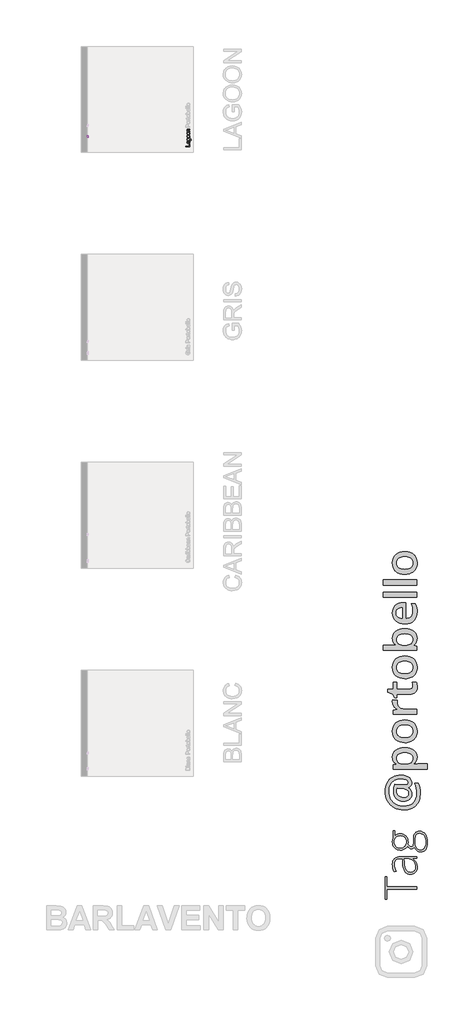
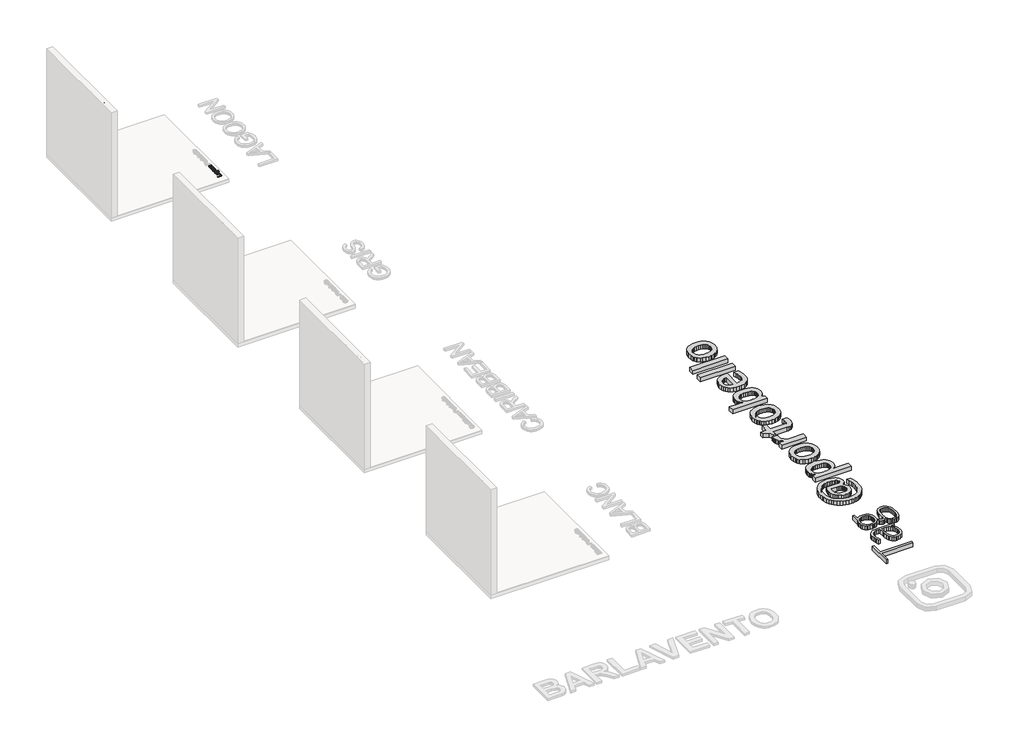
# One storey, part 5 of 7: 4 proxies.
"""IFC4 building model written with IfcOpenShell, lengths in millimetres."""

from ifc_helpers import new_model, si_unit, frame, origin, origin_with_axes, place, context, project, spatial, polyline, outline, extrude, element, save

model = new_model("IFC4")

# Units and contexts
model_context = context("Model", 3, world=origin())
ifc_project = project(units=[si_unit("LENGTHUNIT", "METRE", prefix="MILLI")], contexts=[model_context])

# Site, building, storey
site = spatial("IfcSite", under=ifc_project)
building = spatial("IfcBuilding", under=site)
storey = spatial("IfcBuildingStorey", under=building, Name="PORTOBELLO - SHOWROOM", Elevation=0.0)

# Proxies
placement = place(None, origin())
element("IfcBuildingElementProxy", 1, Name="10mm Arial", ObjectType="10mm Arial", at=placement, inside=storey, context=model_context, shape_type="SweptSolid", body=[
    extrude(outline(polyline([(3314.7405338, 2478.2261649), (3314.7405338, 2578.6824751), (3327.2975726, 2578.6824751), (3327.2975726, 2490.7832037), (3377.5257276, 2490.7832037), (3377.5257276, 2478.2261649), (3314.7405338, 2478.2261649)])), frame((74564.1689403, 0.0, 0.0), z_axis=(1.0, 0.0, 0.0), x_axis=(0.0, 1.0, 0.0)), (0.0, 0.0, 1.0), 20.0),
    extrude(outline(polyline([(3437.1716618, 2487.643944), (3424.9947677, 2479.1336072), (3411.5425494, 2476.6565351), (3401.0487155, 2478.1464572), (3393.3078652, 2482.6162234), (3388.5345963, 2489.4036462), (3386.9435067, 2497.846538), (3389.3470024, 2507.7793519), (3395.66231, 2514.989839), (3404.4546897, 2519.1101173), (3415.3194713, 2520.9985782), (3437.0980854, 2525.3150603), (3437.1716618, 2528.1109635), (3433.713571, 2537.3815898), (3419.8321571, 2541.0113588), (3407.1279655, 2538.5956003), (3401.0701753, 2530.0239499), (3388.5131365, 2531.5935797), (3393.9455273, 2543.8563129), (3404.8838853, 2551.0422745), (3421.4508379, 2553.5683975), (3436.6688897, 2551.3365801), (3445.2650657, 2545.732511), (3449.1155639, 2537.2099115), (3449.7287005, 2526.2225026), (3449.7287005, 2510.5997805), (3450.3663627, 2488.7843782), (3452.8679602, 2478.2261649), (3440.3109215, 2478.2261649), (3437.1716618, 2487.643944)]), holes=[polyline([(3437.1716618, 2512.7580215), (3416.9136266, 2508.9075233), (3406.1101587, 2506.8719096), (3401.2173281, 2503.5609717), (3399.5005455, 2498.7294548), (3403.2406791, 2491.9359006), (3414.2158253, 2489.2135739), (3426.9200168, 2492.2179435), (3435.1115226, 2499.4897443), (3437.0980854, 2509.2018289), (3437.1716618, 2512.7580215)])]), frame((74564.1689403, 0.0, 0.0), z_axis=(1.0, 0.0, 0.0), x_axis=(0.0, 1.0, 0.0)), (0.0, 0.0, 1.0), 20.0),
    extrude(outline(polyline([(3463.8553692, 2471.9476455), (3476.4124079, 2470.3780157), (3480.4836353, 2463.7561398), (3492.6727921, 2460.9602366), (3505.5241365, 2464.1240218), (3511.6555031, 2473.0022406), (3512.5138944, 2487.643944), (3503.6724638, 2480.5806097), (3492.8935213, 2478.2261649), (3479.9471408, 2480.9668858), (3470.2933041, 2489.1890484), (3464.2876305, 2501.2433151), (3462.2857393, 2515.4803483), (3465.8787201, 2534.9413059), (3476.2775179, 2548.7123552), (3492.2803847, 2553.5683975), (3503.4823914, 2550.8215453), (3512.5138944, 2542.5809886), (3512.5138944, 2551.9987677), (3525.0709332, 2551.9987677), (3525.0709332, 2488.3061316), (3521.6373679, 2463.9155553), (3510.7603235, 2452.5725271), (3492.4275375, 2448.4031979), (3480.7442184, 2449.8716602), (3471.5441029, 2454.277047), (3465.6426625, 2461.6316213), (3463.8553692, 2471.9476455)]), holes=[polyline([(3474.8427781, 2516.3387396), (3476.1824817, 2504.8209675), (3480.2015925, 2496.9023076), (3486.2440543, 2492.3129797), (3493.6538108, 2490.7832037), (3501.008385, 2492.3037826), (3507.0815036, 2496.8655194), (3511.1557967, 2504.6830118), (3512.5138944, 2515.9708576), (3511.1159428, 2526.857099), (3506.9220881, 2534.6960512), (3500.7600646, 2539.4325319), (3493.457607, 2541.0113588), (3486.2869738, 2539.4570573), (3480.2751689, 2534.7941531), (3476.2008758, 2527.0716968), (3474.8427781, 2516.3387396)])]), frame((74564.1689403, 0.0, 0.0), z_axis=(1.0, 0.0, 0.0), x_axis=(0.0, 1.0, 0.0)), (0.0, 0.0, 1.0), 20.0),
    extrude(outline(polyline([(3540.7672316, 2515.1124663), (3543.483427, 2532.8995608), (3551.6320132, 2545.4014173), (3561.6997171, 2551.5266525), (3573.7539839, 2553.5683975), (3586.9456191, 2551.0821284), (3597.4823725, 2543.6233209), (3604.389357, 2531.7805864), (3606.6916852, 2516.1425359), (3602.6204577, 2493.7998361), (3590.7623948, 2481.1569582), (3573.7539839, 2476.6565351), (3560.4029331, 2479.1336072), (3549.8784424, 2486.5648235), (3543.0450343, 2498.6558784), (3540.7672316, 2515.1124663)]), holes=[polyline([(3553.3242704, 2515.1369918), (3554.7774043, 2503.7725038), (3559.1368059, 2495.6760342), (3565.6973682, 2490.829189), (3573.7539839, 2489.2135739), (3581.7738113, 2490.838386), (3588.3221109, 2495.7128224), (3592.6815125, 2503.9165909), (3594.1346464, 2515.5293992), (3592.6723155, 2526.5627934), (3588.2853227, 2534.5488984), (3581.7278261, 2539.3957437), (3573.7539839, 2541.0113588), (3565.6973682, 2539.401875), (3559.1368059, 2534.5734239), (3554.7774043, 2526.4953484), (3553.3242704, 2515.1369918)])]), frame((74564.1689403, 0.0, 0.0), z_axis=(1.0, 0.0, 0.0), x_axis=(0.0, 1.0, 0.0)), (0.0, 0.0, 1.0), 20.0),
    extrude(outline(polyline([(3617.6790941, 2515.1124663), (3620.3952895, 2532.8995608), (3628.5438757, 2545.4014173), (3638.6115796, 2551.5266525), (3650.6658463, 2553.5683975), (3663.8574815, 2551.0821284), (3674.394235, 2543.6233209), (3681.3012195, 2531.7805864), (3683.6035476, 2516.1425359), (3679.5323202, 2493.7998361), (3667.6742572, 2481.1569582), (3650.6658463, 2476.6565351), (3637.3147956, 2479.1336072), (3626.7903048, 2486.5648235), (3619.9568968, 2498.6558784), (3617.6790941, 2515.1124663)]), holes=[polyline([(3630.2361328, 2515.1369918), (3631.6892667, 2503.7725038), (3636.0486684, 2495.6760342), (3642.6092306, 2490.829189), (3650.6658463, 2489.2135739), (3658.6856738, 2490.838386), (3665.2339733, 2495.7128224), (3669.593375, 2503.9165909), (3671.0465088, 2515.5293992), (3669.5841779, 2526.5627934), (3665.1971851, 2534.5488984), (3658.6396886, 2539.3957437), (3650.6658463, 2541.0113588), (3642.6092306, 2539.401875), (3636.0486684, 2534.5734239), (3631.6892667, 2526.4953484), (3630.2361328, 2515.1369918)])]), frame((74564.1689403, 0.0, 0.0), z_axis=(1.0, 0.0, 0.0), x_axis=(0.0, 1.0, 0.0)), (0.0, 0.0, 1.0), 20.0),
    extrude(outline(polyline([(3697.7302162, 2478.2261649), (3697.7302162, 2551.9987677), (3710.287255, 2551.9987677), (3710.287255, 2541.6980718), (3719.8889751, 2550.6008161), (3732.9978368, 2553.5683975), (3744.8558998, 2551.1771646), (3752.9493037, 2544.8986452), (3756.7139628, 2535.6648071), (3757.3761504, 2523.5247013), (3757.3761504, 2478.2261649), (3744.8191116, 2478.2261649), (3744.8191116, 2521.8324441), (3743.3721091, 2532.9424803), (3738.2585494, 2538.8163295), (3729.6378479, 2541.0113588), (3716.0139514, 2536.08174), (3711.7189291, 2528.938698), (3710.287255, 2517.3688092), (3710.287255, 2478.2261649), (3697.7302162, 2478.2261649)])), frame((74564.1689403, 0.0, 0.0), z_axis=(1.0, 0.0, 0.0), x_axis=(0.0, 1.0, 0.0)), (0.0, 0.0, 1.0), 20.0),
])
element("IfcBuildingElementProxy", 2, Name="10mm Arial", ObjectType="10mm Arial", at=placement, inside=storey, context=model_context, shape_type="SweptSolid", body=[
    extrude(outline(polyline([(77181.6975876, 3318.0326536), (77081.2412774, 3318.0326536), (77081.2412774, 3330.5896924), (77169.1405488, 3330.5896924), (77169.1405488, 3380.8178475), (77181.6975876, 3380.8178475), (77181.6975876, 3318.0326536)])), frame((0.0, 0.0, 15.0), z_axis=(0.0, 0.0, 1.0), x_axis=(1.0, 0.0, 0.0)), (0.0, 0.0, 1.0), 20.0),
    extrude(outline(polyline([(77172.2798085, 3440.4637816), (77180.7901453, 3428.2868876), (77183.2672174, 3414.8346693), (77181.7772953, 3404.3408354), (77177.3075291, 3396.5999851), (77170.5201063, 3391.8267162), (77162.0772145, 3390.2356266), (77152.1444006, 3392.6391223), (77144.9339135, 3398.9544299), (77140.8136352, 3407.7468095), (77138.9251743, 3418.6115911), (77134.6086922, 3440.3902052), (77131.812789, 3440.4637816), (77122.5421627, 3437.0056909), (77118.9123937, 3423.1242769), (77121.3281522, 3410.4200854), (77129.8998026, 3404.3622952), (77128.3301728, 3391.8052564), (77116.0674396, 3397.2376472), (77108.881478, 3408.1760052), (77106.355355, 3424.7429577), (77108.5871724, 3439.9610096), (77114.1912414, 3448.5571855), (77122.713841, 3452.4076838), (77133.7012499, 3453.0208204), (77149.323972, 3453.0208204), (77171.1393743, 3453.6584825), (77181.6975876, 3456.1600801), (77181.6975876, 3443.6030413), (77172.2798085, 3440.4637816)]), holes=[polyline([(77147.1657309, 3440.4637816), (77151.0162292, 3420.2057464), (77153.0518429, 3409.4022785), (77156.3627808, 3404.509448), (77161.1942977, 3402.7926653), (77167.9878519, 3406.532799), (77170.7101786, 3417.5079451), (77167.705809, 3430.2121367), (77160.4340082, 3438.4036425), (77150.7219236, 3440.3902052), (77147.1657309, 3440.4637816)])]), frame((0.0, 0.0, 15.0), z_axis=(0.0, 0.0, 1.0), x_axis=(1.0, 0.0, 0.0)), (0.0, 0.0, 1.0), 20.0),
    extrude(outline(polyline([(77187.9761069, 3467.147489), (77189.5457368, 3479.7045278), (77196.1676127, 3483.7757552), (77198.9635159, 3495.964912), (77195.7997307, 3508.8162563), (77186.9215119, 3514.9476229), (77172.2798085, 3515.8060143), (77179.3431428, 3506.9645836), (77181.6975876, 3496.1856412), (77178.9568667, 3483.2392606), (77170.7347041, 3473.5854239), (77158.6804374, 3467.5797504), (77144.4434042, 3465.5778592), (77124.9824466, 3469.17084), (77111.2113973, 3479.5696377), (77106.355355, 3495.5725045), (77109.1022072, 3506.7745113), (77117.3427639, 3515.8060143), (77107.9249848, 3515.8060143), (77107.9249848, 3528.363053), (77171.6176209, 3528.363053), (77196.0081972, 3524.9294877), (77207.3512254, 3514.0524434), (77211.5205546, 3495.7196573), (77210.0520923, 3484.0363383), (77205.6467054, 3474.8362227), (77198.2921312, 3468.9347824), (77187.9761069, 3467.147489)]), holes=[polyline([(77143.5850129, 3478.1348979), (77155.102785, 3479.4746015), (77163.0214449, 3483.4937123), (77167.6107728, 3489.5361741), (77169.1405488, 3496.9459306), (77167.6199699, 3504.3005049), (77163.0582331, 3510.3736235), (77155.2407407, 3514.4479166), (77143.9528949, 3515.8060143), (77133.0666535, 3514.4080627), (77125.2277013, 3510.2142079), (77120.4912206, 3504.0521845), (77118.9123937, 3496.7497269), (77120.4666951, 3489.5790937), (77125.1295994, 3483.5672887), (77132.8520557, 3479.4929956), (77143.5850129, 3478.1348979)])]), frame((0.0, 0.0, 15.0), z_axis=(0.0, 0.0, 1.0), x_axis=(1.0, 0.0, 0.0)), (0.0, 0.0, 1.0), 20.0),
    extrude(outline(polyline([(77144.8112862, 3544.0593515), (77127.0241917, 3546.7755469), (77114.5223352, 3554.9241331), (77108.3971, 3564.991837), (77106.355355, 3577.0461037), (77108.8416241, 3590.2377389), (77116.3004316, 3600.7744924), (77128.1431661, 3607.6814769), (77143.7812166, 3609.983805), (77166.1239164, 3605.9125776), (77178.7667943, 3594.0545146), (77183.2672174, 3577.0461037), (77180.7901453, 3563.695053), (77173.358929, 3553.1705622), (77161.2678741, 3546.3371542), (77144.8112862, 3544.0593515)]), holes=[polyline([(77144.7867607, 3556.6163903), (77156.1512487, 3558.0695241), (77164.2477183, 3562.4289258), (77169.0945635, 3568.989488), (77170.7101786, 3577.0461037), (77169.0853665, 3585.0659312), (77164.2109301, 3591.6142307), (77156.0071616, 3595.9736324), (77144.3943533, 3597.4267663), (77133.3609591, 3595.9644353), (77125.3748541, 3591.5774425), (77120.5280088, 3585.019946), (77118.9123937, 3577.0461037), (77120.5218774, 3568.989488), (77125.3503286, 3562.4289258), (77133.4284041, 3558.0695241), (77144.7867607, 3556.6163903)])]), frame((0.0, 0.0, 15.0), z_axis=(0.0, 0.0, 1.0), x_axis=(1.0, 0.0, 0.0)), (0.0, 0.0, 1.0), 20.0),
    extrude(outline(polyline([(77144.8112862, 3620.9712139), (77127.0241917, 3623.6874093), (77114.5223352, 3631.8359955), (77108.3971, 3641.9036995), (77106.355355, 3653.9579662), (77108.8416241, 3667.1496014), (77116.3004316, 3677.6863549), (77128.1431661, 3684.5933393), (77143.7812166, 3686.8956675), (77166.1239164, 3682.8244401), (77178.7667943, 3670.9663771), (77183.2672174, 3653.9579662), (77180.7901453, 3640.6069154), (77173.358929, 3630.0824247), (77161.2678741, 3623.2490166), (77144.8112862, 3620.9712139)]), holes=[polyline([(77144.7867607, 3633.5282527), (77156.1512487, 3634.9813866), (77164.2477183, 3639.3407882), (77169.0945635, 3645.9013505), (77170.7101786, 3653.9579662), (77169.0853665, 3661.9777937), (77164.2109301, 3668.5260932), (77156.0071616, 3672.8854948), (77144.3943533, 3674.3386287), (77133.3609591, 3672.8762978), (77125.3748541, 3668.489305), (77120.5280088, 3661.9318084), (77118.9123937, 3653.9579662), (77120.5218774, 3645.9013505), (77125.3503286, 3639.3407882), (77133.4284041, 3634.9813866), (77144.7867607, 3633.5282527)])]), frame((0.0, 0.0, 15.0), z_axis=(0.0, 0.0, 1.0), x_axis=(1.0, 0.0, 0.0)), (0.0, 0.0, 1.0), 20.0),
    extrude(outline(polyline([(77181.6975876, 3701.0223361), (77107.9249848, 3701.0223361), (77107.9249848, 3713.5793749), (77118.2256807, 3713.5793749), (77109.3229364, 3723.1810949), (77106.355355, 3736.2899567), (77108.7465879, 3748.1480197), (77115.0251073, 3756.2414236), (77124.2589454, 3760.0060827), (77136.3990512, 3760.6682702), (77181.6975876, 3760.6682702), (77181.6975876, 3748.1112315), (77138.0913084, 3748.1112315), (77126.9812721, 3746.664229), (77121.107423, 3741.5506692), (77118.9123937, 3732.9299678), (77123.8420125, 3719.3060713), (77130.9850545, 3715.011049), (77142.5549433, 3713.5793749), (77181.6975876, 3713.5793749), (77181.6975876, 3701.0223361)])), frame((0.0, 0.0, 15.0), z_axis=(0.0, 0.0, 1.0), x_axis=(1.0, 0.0, 0.0)), (0.0, 0.0, 1.0), 20.0),
])
element("IfcBuildingElementProxy", 3, Name="80mm OpenSans Bold", ObjectType="80mm OpenSans Bold", at=placement, inside=storey, context=model_context, shape_type="SweptSolid", body=[
    extrude(outline(polyline([(82558.5850971, -12706.9076279), (82596.6907118, -12708.4549878), (82633.1287833, -12713.0970674), (82667.8993116, -12720.8338668), (82701.0022968, -12731.6653858), (82731.483784, -12745.3061894), (82758.3898182, -12761.470842), (82781.7203996, -12780.1593437), (82801.475528, -12801.3716946), (82817.1970048, -12824.7172988), (82828.426631, -12849.8055608), (82835.1644068, -12876.6364805), (82837.410332, -12905.2100579), (82831.7016257, -12945.8320103), (82824.5657428, -12963.9796872), (82814.5755067, -12980.6851646), (82802.1515591, -12995.362549), (82787.7145412, -13007.4259469), (82771.2644533, -13016.8753581), (82752.8012952, -13023.7107828), (82752.8012952, -13030.4410471), (82789.8177488, -13060.6070531), (82816.2580728, -13097.2629568), (82832.1222672, -13139.6275669), (82837.410332, -13186.9196918), (82833.8574135, -13229.5847601), (82823.1986579, -13267.4424967), (82805.4340652, -13300.4929017), (82780.5636354, -13328.7359751), (82749.6239495, -13351.3454567), (82713.6515882, -13367.4950864), (82672.6465516, -13377.1848643), (82626.6088398, -13380.4147902), (82573.4652908, -13376.1332605), (82525.5647379, -13363.2886713), (82482.9071811, -13341.8810226), (82445.4926203, -13311.9103144), (82415.0486905, -13274.7286088), (82393.3030263, -13231.6879677), (82380.2556277, -13182.7883912), (82375.9064949, -13128.0298793), (82377.7392901, -13083.7122908), (82383.2376757, -13034.8878288), (82391.9810101, -12986.6642833), (82403.5486518, -12944.1494442), (82654.7317298, -12956.4081399), (82667.4711587, -12956.4081399), (82705.3288953, -12952.8026411), (82732.3701358, -12941.9861449), (82741.8345699, -12933.8737728), (82748.59488, -12923.9586513), (82754.0031281, -12898.7201602), (82750.5403471, -12877.9660082), (82740.1520038, -12859.4502699), (82722.8380985, -12843.1729454), (82698.598631, -12829.1340348), (82668.9959842, -12817.829294), (82635.5925408, -12809.7544791), (82598.3883008, -12804.9095902), (82557.3832642, -12803.2946272), (82512.2919957, -12805.713316), (82470.0400575, -12812.9693822), (82430.6274496, -12825.0628258), (82394.0541718, -12841.9936469), (82360.9136294, -12863.3862727), (82331.7992271, -12888.8651304), (82306.7109652, -12918.4302199), (82285.6488434, -12952.0815414), (82268.9809233, -12989.0829721), (82257.075266, -13028.6983893), (82249.9318717, -13070.9277932), (82247.5507402, -13115.7711836), (82250.5402996, -13172.745575), (82259.5089777, -13225.8891239), (82274.4567745, -13275.2018305), (82295.38369, -13320.6836946), (82321.8615713, -13361.6737083), (82353.4622653, -13397.5108633), (82390.1857722, -13428.1951598), (82432.0320918, -13453.7265977), (82478.2200328, -13473.8122302), (82527.9684037, -13488.1591105), (82581.2772047, -13496.7672387), (82638.1464357, -13499.6366148), (82712.3220605, -13494.2809469), (82777.408824, -13478.2139432), (82806.5438828, -13466.1636904), (82833.4067261, -13451.4356037), (82857.9973542, -13434.029683), (82880.3157669, -13413.9459284), (82900.1741778, -13391.360859), (82917.3848007, -13366.4509941), (82931.9476354, -13339.2163337), (82943.862682, -13309.6568777), (82959.7494107, -13243.5635791), (82965.044987, -13168.1710984), (82961.9502672, -13106.4569786), (82952.666108, -13043.4208425), (82937.1925093, -12979.0626902), (82915.5294711, -12913.3825217), (83005.6669393, -12913.3825217), (83026.2783737, -12972.6028383), (83041.0008268, -13034.4070957), (83049.8342987, -13098.7952938), (83052.7787893, -13165.7674326), (83051.0830782, -13215.3824753), (83045.9959449, -13262.1919892), (83037.5173893, -13306.1959745), (83025.6474114, -13347.394431), (83010.3860113, -13385.7873589), (82991.733189, -13421.374758), (82969.6889444, -13454.1566285), (82944.2532776, -13484.1329703), (82915.7829827, -13510.9206991), (82884.6348539, -13534.1367307), (82850.8088911, -13553.7810652), (82814.3050943, -13569.8537025), (82775.1234636, -13582.3546426), (82733.263999, -13591.2838856), (82688.7267004, -13596.6414313), (82641.5115678, -13598.4272799), (82572.4437328, -13594.5663917), (82507.2968777, -13582.983727), (82446.0710024, -13563.6792859), (82388.766107, -13536.6530684), (82336.6666504, -13502.7764033), (82291.0570915, -13462.9206194), (82251.9374303, -13417.0857168), (82219.3076668, -13365.2716956), (82193.595954, -13308.6503426), (82175.2304449, -13248.3934451), (82164.2111394, -13184.5010031), (82160.5380376, -13116.9730165), (82163.6027115, -13058.7517235), (82172.7967333, -13003.7904023), (82188.1201029, -12952.0890528), (82209.5728203, -12903.6476751), (82236.6891753, -12859.4652928), (82269.0034576, -12820.5409295), (82306.5156673, -12786.8745851), (82349.2258043, -12758.4662597), (82396.2925856, -12735.9093583), (82446.8747282, -12719.7972859), (82500.972232, -12710.1300424), (82558.5850971, -12706.9076279)]), holes=[polyline([(82628.5317724, -13275.1342274), (82657.9391214, -13273.5455545), (82683.4254905, -13268.7795359), (82704.9908798, -13260.8361715), (82722.6352892, -13249.7154613), (82736.3587187, -13235.4174054), (82746.1611684, -13217.9420038), (82752.0426382, -13197.2892564), (82754.0031281, -13173.4591633), (82751.5393707, -13148.1756034), (82744.1480983, -13125.9266717), (82731.829311, -13106.7123681), (82714.5830087, -13090.5326925), (82692.4091915, -13077.3876451), (82665.3078594, -13067.2772257), (82633.2790124, -13060.2014345), (82596.3226504, -13056.1602713), (82467.7265292, -13049.430007), (82460.8760816, -13085.7253609), (82458.5925991, -13124.4243806), (82461.4544637, -13158.0381447), (82470.0400575, -13187.730929), (82484.3493806, -13213.5027335), (82504.3824329, -13235.3535581), (82529.3129543, -13252.7576009), (82558.3146847, -13265.18906), (82591.3876241, -13272.6479355), (82628.5317724, -13275.1342274)])]), origin_with_axes(), (0.0, 0.0, 1.0), 100.0),
    extrude(outline(polyline([(82975.8614832, -12248.2881898), (82970.6635558, -12301.8448688), (82955.0697738, -12349.0618792), (82929.0801372, -12389.939221), (82892.6946458, -12424.4768943), (82892.6946458, -12432.1686249), (82986.6779793, -12424.4768943), (83237.3803242, -12424.4768943), (83237.3803242, -12553.3133821), (82360.5230337, -12553.3133821), (82360.5230337, -12448.9942856), (82437.6807064, -12430.966792), (82437.6807064, -12424.4768943), (82415.9913782, -12408.6465014), (82397.1939603, -12390.960779), (82381.2884529, -12371.4197271), (82368.2748559, -12350.0233455), (82358.1531694, -12326.7716345), (82350.9233933, -12301.6645939), (82345.1395724, -12245.884524), (82350.2999425, -12193.0789905), (82365.7810526, -12146.4328507), (82391.5829029, -12105.9461046), (82427.7054933, -12071.6187521), (82473.1422887, -12044.2770535), (82526.8867541, -12024.7472687), (82588.9388895, -12013.0293978), (82659.2986949, -12009.1234409), (82729.8312637, -12013.0970009), (82792.161323, -12025.0176811), (82846.2888726, -12044.8854814), (82892.2139127, -12072.7004018), (82928.8097248, -12107.5159988), (82954.9495905, -12148.3858292), (82970.63351, -12195.3098929), (82975.8614832, -12248.2881898)]), holes=[polyline([(82452.8238011, -12279.776212), (82455.6180626, -12314.8622215), (82464.0008471, -12344.8855099), (82477.9721547, -12369.8460771), (82497.5319853, -12389.7439232), (82523.2211637, -12404.939598), (82555.5805148, -12415.7936515), (82594.6100386, -12422.3060836), (82640.3097349, -12424.4768943), (82659.2986949, -12424.4768943), (82710.6470059, -12422.3286179), (82754.363678, -12415.883789), (82790.4487111, -12405.1424073), (82818.9021052, -12390.1044731), (82840.459983, -12370.1840926), (82855.8584672, -12344.7953724), (82865.0975577, -12313.9383124), (82868.1772545, -12277.6129128), (82864.7670536, -12246.6882497), (82854.536451, -12219.5343374), (82837.4854466, -12196.1511759), (82813.6140404, -12176.5387651), (82783.4480344, -12161.0276091), (82747.5132304, -12149.948212), (82705.8096285, -12143.3005737), (82658.3372286, -12141.0846943), (82610.7070881, -12143.2855508), (82569.2513642, -12149.8881203), (82533.9700568, -12160.8924029), (82504.8631661, -12176.2983985), (82482.0959439, -12195.970901), (82465.8336423, -12219.774704), (82456.0762614, -12247.7098077), (82452.8238011, -12279.776212)])]), origin_with_axes(), (0.0, 0.0, 1.0), 100.0),
    extrude(outline(polyline([(82659.2986949, -11301.0034908), (82729.8312637, -11305.8108224), (82792.161323, -11320.2328173), (82846.2888726, -11344.2694755), (82892.2139127, -11377.920797), (82911.818812, -11398.0928112), (82928.8097248, -11420.1502008), (82943.1866509, -11444.0929658), (82954.9495905, -11469.9211062), (82970.63351, -11527.233513), (82975.8614832, -11592.0874214), (82973.4503059, -11633.7384431), (82966.2167741, -11672.8806387), (82954.1608877, -11709.5140081), (82937.2826468, -11743.6385512), (82915.9050439, -11774.6157945), (82890.3510717, -11801.807264), (82860.6207301, -11825.2129599), (82826.7140191, -11844.8328822), (82789.2543896, -11860.3440382), (82748.8652924, -11871.4234353), (82705.5467275, -11878.0710736), (82659.2986949, -11880.286953), (82589.3294852, -11875.5171786), (82527.4876706, -11861.2078556), (82473.773251, -11837.3589838), (82428.1862265, -11803.9705633), (82408.7221669, -11783.9130987), (82391.8533153, -11761.8989), (82377.5796717, -11737.9279671), (82365.9012359, -11712.0002999), (82350.3299883, -11654.274763), (82345.1395724, -11588.7222892), (82350.4576831, -11525.8288708), (82366.4120149, -11469.8309687), (82393.002568, -11420.7285829), (82430.2293424, -11378.5217134), (82476.4548407, -11344.607491), (82530.0415655, -11320.3830465), (82590.9895169, -11305.8483797), (82659.2986949, -11301.0034908)]), holes=[polyline([(82659.2986949, -11747.6045998), (82708.2546073, -11745.1408424), (82750.6830647, -11737.74957), (82786.5840671, -11725.4307827), (82815.9576146, -11708.1844804), (82838.8037071, -11686.0106632), (82855.1223445, -11658.9093311), (82864.913527, -11626.8804841), (82868.1772545, -11589.9241222), (82864.913527, -11553.3057757), (82855.1223445, -11521.5698754), (82838.8037071, -11494.7164214), (82815.9576146, -11472.7454135), (82786.5840671, -11455.6568518), (82750.6830647, -11443.4507363), (82708.2546073, -11436.1270671), (82659.2986949, -11433.685844), (82610.9061417, -11436.14209), (82568.9659289, -11443.510828), (82533.4780565, -11455.792058), (82504.4425245, -11472.9857801), (82481.859333, -11495.0919942), (82465.728482, -11522.1107003), (82456.0499713, -11554.0418984), (82452.8238011, -11590.8855885), (82456.1588874, -11629.2766385), (82466.1641464, -11662.0040509), (82482.839578, -11689.0678257), (82506.1851823, -11710.4679629), (82535.7652947, -11726.7152416), (82571.144251, -11738.3204406), (82612.322051, -11745.28356), (82659.2986949, -11747.6045998)])]), origin_with_axes(), (0.0, 0.0, 1.0), 100.0),
    extrude(outline(polyline([(82345.1395724, -10850.3161499), (82346.5216803, -10815.6432704), (82350.6680038, -10787.580472), (82470.8512947, -10799.8391677), (82465.8035965, -10827.240958), (82464.1210304, -10855.6042147), (82467.2608189, -10891.6592019), (82476.6801843, -10924.1086905), (82492.3791267, -10952.9526803), (82514.357646, -10978.1911714), (82541.3538178, -10998.6974454), (82572.1057173, -11013.344784), (82606.6133447, -11022.1331871), (82644.8767, -11025.0626549), (82960.4780219, -11025.0626549), (82960.4780219, -11153.8991427), (82360.5230337, -11153.8991427), (82360.5230337, -11052.9451783), (82462.6788309, -11035.879151), (82462.6788309, -11029.3892533), (82437.0347213, -11013.592662), (82414.1848731, -10995.5276111), (82394.1292864, -10975.1941006), (82376.8679612, -10952.5921304), (82362.9867911, -10928.3977317), (82353.0716696, -10903.2869353), (82347.1225967, -10877.2597414), (82345.1395724, -10850.3161499)])), origin_with_axes(), (0.0, 0.0, 1.0), 100.0),
    extrude(outline(polyline([(82868.1772545, -10431.3571977), (82864.5116641, -10383.4641563), (82853.514893, -10335.4509316), (82953.2670245, -10335.4509316), (82962.1004963, -10360.2086895), (82969.3715854, -10391.2159786), (82974.2390087, -10425.9489496), (82975.8614832, -10461.8837536), (82972.8268551, -10505.2624102), (82963.7229708, -10542.8572459), (82948.5498303, -10574.6682607), (82927.3074336, -10600.6954546), (82899.9957808, -10620.9388277), (82866.6148717, -10635.3983799), (82827.1647065, -10644.0741112), (82781.645285, -10646.9660216), (82452.8238011, -10646.9660216), (82452.8238011, -10730.6135921), (82398.7413202, -10730.6135921), (82354.033136, -10640.9568571), (82222.0718825, -10596.9697726), (82222.0718825, -10517.408434), (82360.5230337, -10517.408434), (82360.5230337, -10341.7004627), (82452.8238011, -10341.7004627), (82452.8238011, -10517.408434), (82777.3186866, -10517.408434), (82799.0042591, -10515.9286773), (82817.6702265, -10511.4894069), (82833.3165887, -10504.0906231), (82845.9433457, -10493.7323257), (82855.6706808, -10480.9553396), (82862.6187773, -10466.3004896), (82868.1772545, -10431.3571977)])), origin_with_axes(), (0.0, 0.0, 1.0), 100.0),
    extrude(outline(polyline([(82659.2986949, -9670.3565997), (82729.8312637, -9675.1639313), (82792.161323, -9689.5859262), (82846.2888726, -9713.6225844), (82892.2139127, -9747.2739058), (82911.818812, -9767.4459201), (82928.8097248, -9789.5033097), (82943.1866509, -9813.4460747), (82954.9495905, -9839.274215), (82970.63351, -9896.5866219), (82975.8614832, -9961.4405303), (82973.4503059, -10003.091552), (82966.2167741, -10042.2337476), (82954.1608877, -10078.8671169), (82937.2826468, -10112.9916601), (82915.9050439, -10143.9689033), (82890.3510717, -10171.1603729), (82860.6207301, -10194.5660688), (82826.7140191, -10214.185991), (82789.2543896, -10229.697147), (82748.8652924, -10240.7765442), (82705.5467275, -10247.4241824), (82659.2986949, -10249.6400619), (82589.3294852, -10244.8702875), (82527.4876706, -10230.5609644), (82473.773251, -10206.7120926), (82428.1862265, -10173.3236721), (82408.7221669, -10153.2662076), (82391.8533153, -10131.2520089), (82377.5796717, -10107.2810759), (82365.9012359, -10081.3534088), (82350.3299883, -10023.6278718), (82345.1395724, -9958.0753981), (82350.4576831, -9895.1819797), (82366.4120149, -9839.1840776), (82393.002568, -9790.0816918), (82430.2293424, -9747.8748223), (82476.4548407, -9713.9605999), (82530.0415655, -9689.7361553), (82590.9895169, -9675.2014886), (82659.2986949, -9670.3565997)]), holes=[polyline([(82659.2986949, -10116.9577087), (82708.2546073, -10114.4939512), (82750.6830647, -10107.1026788), (82786.5840671, -10094.7838915), (82815.9576146, -10077.5375893), (82838.8037071, -10055.3637721), (82855.1223445, -10028.26244), (82864.913527, -9996.233593), (82868.1772545, -9959.277231), (82864.913527, -9922.6588846), (82855.1223445, -9890.9229843), (82838.8037071, -9864.0695302), (82815.9576146, -9842.0985224), (82786.5840671, -9825.0099607), (82750.6830647, -9812.8038452), (82708.2546073, -9805.4801759), (82659.2986949, -9803.0389528), (82610.9061417, -9805.4951988), (82568.9659289, -9812.8639369), (82533.4780565, -9825.1451669), (82504.4425245, -9842.338889), (82481.859333, -9864.445103), (82465.728482, -9891.4638091), (82456.0499713, -9923.3950072), (82452.8238011, -9960.2386973), (82456.1588874, -9998.6297473), (82466.1641464, -10031.3571597), (82482.839578, -10058.4209346), (82506.1851823, -10079.8210718), (82535.7652947, -10096.0683504), (82571.144251, -10107.6735495), (82612.322051, -10114.6366689), (82659.2986949, -10116.9577087)])]), origin_with_axes(), (0.0, 0.0, 1.0), 100.0),
    extrude(outline(polyline([(82345.1395724, -9215.3426603), (82350.2999425, -9162.5371268), (82365.7810526, -9115.890987), (82391.5829029, -9075.4042409), (82427.7054933, -9041.0768884), (82473.1422887, -9013.7351897), (82526.8867541, -8994.205405), (82588.9388895, -8982.4875341), (82659.2986949, -8978.5815771), (82730.0265616, -8982.5326028), (82792.4617812, -8994.3856799), (82846.6043538, -9014.1408083), (82892.4542793, -9041.7979882), (82928.944931, -9076.4858905), (82955.0096822, -9117.3331865), (82970.6485329, -9164.3398762), (82975.8614832, -9217.5059595), (82970.6635558, -9271.1677989), (82955.0697738, -9318.4599239), (82929.0801372, -9359.3823344), (82892.6946458, -9393.9350306), (82892.6946458, -9402.5882275), (82960.4780219, -9426.1441525), (82960.4780219, -9522.7715184), (82114.3876539, -9522.7715184), (82114.3876539, -9393.9350306), (82314.37265, -9393.9350306), (82380.3532767, -9396.0983298), (82435.9981404, -9399.2230954), (82435.9981404, -9393.9350306), (82414.7031635, -9377.8943169), (82396.2475169, -9360.0583654), (82380.6312005, -9340.427176), (82367.8542144, -9319.0007487), (82357.9165585, -9295.7790834), (82350.8182329, -9270.7621803), (82345.1395724, -9215.3426603)]), holes=[polyline([(82452.8238011, -9249.2343483), (82455.6706428, -9284.7785566), (82464.2111679, -9314.9746084), (82478.4453764, -9339.8225038), (82498.3732684, -9359.3222428), (82524.9713329, -9374.1047875), (82559.2160594, -9384.8011004), (82601.1074477, -9391.4111814), (82650.6454979, -9393.9350306), (82659.2986949, -9393.9350306), (82710.6470059, -9391.7867542), (82754.363678, -9385.3419253), (82790.4487111, -9374.6005436), (82818.9021052, -9359.5626093), (82840.459983, -9339.6422289), (82855.8584672, -9314.2535087), (82865.0975577, -9283.3964487), (82868.1772545, -9247.0710491), (82864.8046109, -9215.5604925), (82854.6866801, -9188.091099), (82837.8234621, -9164.6628688), (82814.2149569, -9145.2758016), (82784.2367372, -9130.0801268), (82748.264376, -9119.2260733), (82706.2978731, -9112.7136413), (82658.3372286, -9110.5428306), (82610.170019, -9112.7098855), (82568.425104, -9119.2110504), (82533.1024837, -9130.0463253), (82504.202158, -9145.21571), (82481.7241268, -9164.7192047), (82465.6683903, -9188.5568093), (82456.0349484, -9216.7285238), (82452.8238011, -9249.2343483)])]), origin_with_axes(), (0.0, 0.0, 1.0), 100.0),
    extrude(outline(polyline([(82975.8614832, -8549.7675952), (82970.6860902, -8616.5819935), (82955.1599113, -8675.6896382), (82943.5152771, -8702.353428), (82929.2829465, -8727.0905295), (82912.4629193, -8749.9009425), (82893.0551957, -8770.7846672), (82847.7385836, -8805.645333), (82794.5950346, -8830.5458086), (82733.6245489, -8845.4860939), (82664.8271263, -8850.466189), (82594.2945574, -8845.8466438), (82531.7241316, -8831.9880081), (82477.1158488, -8808.8902818), (82430.469709, -8776.5534651), (82393.1377742, -8736.1343221), (82366.4721066, -8688.7896169), (82350.472706, -8634.5193496), (82345.1395724, -8573.3235202), (82349.6314229, -8516.6045183), (82363.1069744, -8466.1500705), (82385.5662269, -8421.9601767), (82417.0091804, -8384.034837), (82456.3241394, -8353.5909071), (82502.3994086, -8331.8452429), (82555.2349879, -8318.7978444), (82614.8308772, -8314.4487116), (82683.5757197, -8314.4487116), (82683.5757197, -8717.7838359), (82725.4746194, -8713.8177873), (82762.2356836, -8704.5636739), (82793.858912, -8690.0214957), (82820.3443047, -8670.1912527), (82841.2712202, -8645.4334947), (82856.2190171, -8616.1087717), (82865.1876951, -8582.2170837), (82868.1772545, -8543.7584306), (82865.6534054, -8491.9894781), (82858.0818581, -8443.8861159), (82844.6213295, -8395.902937), (82824.4305366, -8344.4945343), (82932.3551318, -8344.4945343), (82952.666108, -8391.8767967), (82966.0064533, -8439.799884), (82973.3977257, -8491.3885616), (82975.8614832, -8549.7675952)]), holes=[polyline([(82437.4403399, -8573.5638868), (82439.8965859, -8602.5806401), (82447.2653239, -8628.5777882), (82459.5465539, -8651.5553311), (82476.740276, -8671.5132689), (82498.6361693, -8688.1060745), (82525.0239131, -8700.988221), (82555.9035074, -8710.1597083), (82591.2749522, -8715.6205366), (82591.2749522, -8441.1219002), (82555.7082096, -8443.8335357), (82524.7234549, -8450.7666093), (82498.3206882, -8461.921121), (82476.4999094, -8477.2970707), (82459.4113477, -8496.4287484), (82447.2052322, -8518.8504436), (82439.881563, -8544.5621564), (82437.4403399, -8573.5638868)])]), origin_with_axes(), (0.0, 0.0, 1.0), 100.0),
    extrude(outline(polyline([(82960.4780219, -8040.6711748), (82960.4780219, -8169.5076627), (82114.3876539, -8169.5076627), (82114.3876539, -8040.6711748), (82960.4780219, -8040.6711748)])), origin_with_axes(), (0.0, 0.0, 1.0), 100.0),
    extrude(outline(polyline([(82960.4780219, -7733.0019501), (82960.4780219, -7861.838438), (82114.3876539, -7861.838438), (82114.3876539, -7733.0019501), (82960.4780219, -7733.0019501)])), origin_with_axes(), (0.0, 0.0, 1.0), 100.0),
    extrude(outline(polyline([(82659.2986949, -7009.0178056), (82729.8312637, -7013.8251373), (82792.161323, -7028.2471322), (82846.2888726, -7052.2837904), (82892.2139127, -7085.9351118), (82911.818812, -7106.1071261), (82928.8097248, -7128.1645157), (82943.1866509, -7152.1072806), (82954.9495905, -7177.935421), (82970.63351, -7235.2478279), (82975.8614832, -7300.1017362), (82973.4503059, -7341.752758), (82966.2167741, -7380.8949535), (82954.1608877, -7417.5283229), (82937.2826468, -7451.6528661), (82915.9050439, -7482.6301093), (82890.3510717, -7509.8215789), (82860.6207301, -7533.2272748), (82826.7140191, -7552.847197), (82789.2543896, -7568.358353), (82748.8652924, -7579.4377501), (82705.5467275, -7586.0853884), (82659.2986949, -7588.3012678), (82589.3294852, -7583.5314935), (82527.4876706, -7569.2221704), (82473.773251, -7545.3732986), (82428.1862265, -7511.9848781), (82408.7221669, -7491.9274136), (82391.8533153, -7469.9132148), (82377.5796717, -7445.9422819), (82365.9012359, -7420.0146147), (82350.3299883, -7362.2890778), (82345.1395724, -7296.7366041), (82350.4576831, -7233.8431857), (82366.4120149, -7177.8452835), (82393.002568, -7128.7428977), (82430.2293424, -7086.5360283), (82476.4548407, -7052.6218059), (82530.0415655, -7028.3973613), (82590.9895169, -7013.8626945), (82659.2986949, -7009.0178056)]), holes=[polyline([(82659.2986949, -7455.6189147), (82708.2546073, -7453.1551572), (82750.6830647, -7445.7638848), (82786.5840671, -7433.4450975), (82815.9576146, -7416.1987953), (82838.8037071, -7394.0249781), (82855.1223445, -7366.923646), (82864.913527, -7334.8947989), (82868.1772545, -7297.938437), (82864.913527, -7261.3200905), (82855.1223445, -7229.5841903), (82838.8037071, -7202.7307362), (82815.9576146, -7180.7597283), (82786.5840671, -7163.6711667), (82750.6830647, -7151.4650512), (82708.2546073, -7144.1413819), (82659.2986949, -7141.7001588), (82610.9061417, -7144.1564048), (82568.9659289, -7151.5251428), (82533.4780565, -7163.8063729), (82504.4425245, -7181.0000949), (82481.859333, -7203.106309), (82465.728482, -7230.1250151), (82456.0499713, -7262.0562132), (82452.8238011, -7298.8999033), (82456.1588874, -7337.2909533), (82466.1641464, -7370.0183657), (82482.839578, -7397.0821405), (82506.1851823, -7418.4822778), (82535.7652947, -7434.7295564), (82571.144251, -7446.3347554), (82612.322051, -7453.2978749), (82659.2986949, -7455.6189147)])]), origin_with_axes(), (0.0, 0.0, 1.0), 100.0),
])
element("IfcBuildingElementProxy", 4, Name="80mm OpenSans Light", ObjectType="80mm OpenSans Light", at=placement, inside=storey, context=model_context, shape_type="SweptSolid", body=[
    extrude(outline(polyline([(82960.4780219, -15556.7472905), (82960.4780219, -15613.2334372), (82206.6884213, -15613.2334372), (82206.6884213, -15871.8678793), (82160.5380376, -15871.8678793), (82160.5380376, -15298.353215), (82206.6884213, -15298.353215), (82206.6884213, -15556.7472905), (82960.4780219, -15556.7472905)])), origin_with_axes(), (0.0, 0.0, 1.0), 100.0),
    extrude(outline(polyline([(82960.4780219, -14826.7539815), (82864.8121224, -14840.4548766), (82864.8121224, -14844.7814751), (82892.9875926, -14867.6538576), (82916.7012582, -14890.8417213), (82935.9531191, -14914.3450662), (82950.7431754, -14938.1638921), (82961.732435, -14963.2296197), (82969.5819062, -14990.4736695), (82974.2915889, -15019.8960414), (82975.8614832, -15051.4967355), (82972.9695727, -15093.3806123), (82964.2938414, -15130.3369743), (82949.8342892, -15162.3658213), (82929.5909162, -15189.4671534), (82904.2397532, -15211.0250312), (82874.4568314, -15226.4235154), (82840.2421508, -15235.6626059), (82801.5957113, -15238.7423027), (82759.3738189, -15234.1528033), (82722.1245102, -15220.384305), (82689.8477851, -15197.4368079), (82662.5436437, -15165.310312), (82640.6477504, -15124.5005732), (82624.5957696, -15075.5033478), (82614.3877014, -15018.3186357), (82610.0235456, -14952.9464369), (82606.6584135, -14838.2915774), (82566.2768277, -14838.2915774), (82525.6548754, -14840.4698995), (82490.3209879, -14847.004866), (82460.2751651, -14857.8964767), (82435.5174072, -14873.1447317), (82416.1678974, -14893.2453872), (82402.3468189, -14918.694199), (82394.0541718, -14949.4911673), (82391.2899561, -14985.636292), (82394.1743551, -15027.8356501), (82402.8275521, -15070.7861537), (82417.249547, -15114.4878028), (82437.4403399, -15158.9405975), (82390.3284898, -15179.371757), (82370.5583385, -15130.0064703), (82356.4368018, -15080.9416417), (82347.9638798, -15032.1772715), (82345.1395724, -14983.7133594), (82348.3770098, -14937.3301206), (82358.089322, -14897.2114358), (82374.276509, -14863.357305), (82396.9385708, -14835.7677283), (82426.4510802, -14814.367591), (82463.1896099, -14799.0817787), (82507.15416, -14789.9102913), (82558.3447305, -14786.8531289), (82960.4780219, -14786.8531289), (82960.4780219, -14826.7539815)]), holes=[polyline([(82929.7110994, -15048.6123365), (82926.143158, -15002.8525485), (82915.4393336, -14962.2005503), (82897.5996264, -14926.656342), (82872.6240363, -14896.2199236), (82841.3087775, -14871.8227155), (82804.4500645, -14854.3961384), (82762.0478972, -14843.9401921), (82714.1022755, -14840.4548766), (82652.8087972, -14840.4548766), (82657.3757622, -14945.975806), (82662.2807428, -15004.9858019), (82670.7461533, -15054.8618676), (82682.7719939, -15095.6040032), (82698.3582644, -15127.2122087), (82718.1359272, -15150.8732941), (82742.7359446, -15167.7740694), (82772.1583165, -15177.9145346), (82806.403043, -15181.2946897), (82833.9851082, -15179.123879), (82858.3222246, -15172.6114469), (82879.4143922, -15161.7573934), (82897.2616109, -15146.5617186), (82911.4582621, -15127.415018), (82921.5987273, -15104.7078875), (82927.6830064, -15078.440327), (82929.7110994, -15048.6123365)])]), origin_with_axes(), (0.0, 0.0, 1.0), 100.0),
    extrude(outline(polyline([(82360.5230337, -14130.6523605), (82398.9816868, -14130.6523605), (82406.6734174, -14253.960417), (82438.8224477, -14232.2973788), (82472.5338608, -14216.8237801), (82507.8076567, -14207.5396208), (82544.6438354, -14204.4449011), (82587.2337891, -14208.0053311), (82625.5872818, -14218.6866211), (82659.7043135, -14236.488771), (82689.5848842, -14261.411781), (82713.8769319, -14292.3439555), (82731.2283945, -14328.1735991), (82741.6392721, -14368.9007118), (82745.1095646, -14414.5252936), (82741.7444325, -14471.0114403), (82760.0423385, -14499.4047428), (82781.2847352, -14520.1664063), (82804.6904311, -14532.8757893), (82829.4782348, -14537.1122503), (82853.8153512, -14531.7340481), (82863.1445792, -14525.0112952), (82870.5809203, -14515.5994413), (82880.3157669, -14486.7854973), (82883.5607157, -14443.3692834), (82883.5607157, -14339.5309201), (82886.0244732, -14294.1542163), (82893.4157456, -14254.4111043), (82905.7345329, -14220.301584), (82922.9808352, -14191.8256555), (82945.0494919, -14169.3739145), (82971.8353429, -14153.3369566), (83003.338388, -14143.7147819), (83039.5586273, -14140.5073903), (83084.2142314, -14145.2696532), (83123.4766102, -14159.5564419), (83157.3457639, -14183.3677565), (83185.8216924, -14216.7035968), (83208.3785938, -14258.8278402), (83224.4906662, -14309.0043642), (83234.1579097, -14367.2331686), (83237.3803242, -14433.5142536), (83234.62362, -14486.3573443), (83226.3535072, -14532.8757893), (83212.5699861, -14573.0695887), (83193.2730564, -14606.9387424), (83169.0486118, -14633.8072193), (83140.4825459, -14652.9989886), (83107.5748585, -14664.5140502), (83070.3255498, -14668.352404), (83040.29475, -14665.978784), (83012.9380284, -14658.857924), (82988.255385, -14646.9898241), (82966.2468199, -14630.3744841), (82947.2127912, -14609.6879352), (82931.4537572, -14585.6062082), (82918.9697178, -14558.1293033), (82909.7606732, -14527.2572205), (82896.3602362, -14551.4741536), (82878.2726509, -14570.2828386), (82856.3392003, -14582.3612594), (82831.4011675, -14586.3873996), (82803.4134836, -14581.6251367), (82777.1384116, -14567.338348), (82752.5759515, -14543.5270335), (82729.7261034, -14510.1911932), (82716.9716516, -14534.8212564), (82701.0623885, -14556.5518977), (82681.998314, -14575.383117), (82659.779428, -14591.3149146), (82635.1118076, -14603.9867403), (82608.7015294, -14613.0380444), (82580.5485935, -14618.4688268), (82550.6529999, -14620.2790877), (82506.4405718, -14616.7487035), (82466.8251545, -14606.157551), (82431.8067481, -14588.5056301), (82401.3853526, -14563.7929409), (82376.7778238, -14533.0710872), (82359.2010175, -14497.3916727), (82348.6549337, -14456.7546975), (82345.1395724, -14411.1601615), (82348.9854377, -14359.3010714), (82360.5230337, -14320.5419601), (82360.5230337, -14130.6523605)]), holes=[polyline([(83063.5952855, -14610.904791), (83093.5096578, -14608.0692165), (83119.4354471, -14599.5624929), (83141.3726534, -14585.3846203), (83159.3212767, -14565.5355987), (83173.2813171, -14540.015428), (83183.2527745, -14508.8241082), (83189.235649, -14471.9616395), (83191.2299405, -14429.4280217), (83188.7999846, -14374.7258457), (83181.5101168, -14327.3172931), (83169.3603373, -14287.2023641), (83152.3506459, -14254.3810585), (83130.4810426, -14228.8533763), (83103.7515276, -14210.6193177), (83072.1621007, -14199.6788825), (83035.712762, -14196.0320707), (83009.7456597, -14198.3155533), (82987.6093998, -14205.1660008), (82969.3039823, -14216.5834135), (82954.8294072, -14232.5677912), (82943.8401476, -14253.6599587), (82935.9906764, -14280.400741), (82931.2809937, -14312.7901379), (82929.7110994, -14350.8281494), (82929.7110994, -14447.9362485), (82931.8030399, -14486.1320006), (82938.0788611, -14519.2349858), (82948.5385631, -14547.2452041), (82963.182146, -14570.1626554), (82982.0096096, -14587.9873397), (83005.0209541, -14600.7192571), (83032.2161794, -14608.3584075), (83063.5952855, -14610.904791)]), polyline([(82549.9319002, -14565.2351404), (82583.3954352, -14562.6286653), (82612.8778988, -14554.8092399), (82638.3792908, -14541.7768643), (82659.8996113, -14523.5315385), (82676.988173, -14500.9295683), (82689.1942885, -14474.8272598), (82696.5179578, -14445.224613), (82698.9591809, -14412.1216278), (82696.5329807, -14377.2684734), (82689.2543801, -14346.7419175), (82677.1233792, -14320.5419601), (82660.1399779, -14298.6686012), (82638.5595657, -14281.4222989), (82612.6375322, -14269.1035116), (82582.3738772, -14261.7122392), (82547.7686009, -14259.2484818), (82511.0450941, -14261.7873538), (82479.2340793, -14269.4039698), (82452.3355565, -14282.0983299), (82430.3495257, -14299.8704341), (82413.260964, -14322.1944804), (82401.0548485, -14348.5446669), (82393.7311792, -14378.9209937), (82391.2899561, -14413.3234607), (82393.9114542, -14446.7794843), (82401.7759483, -14476.4797801), (82414.8834384, -14502.424348), (82433.2339247, -14524.6131881), (82456.2565363, -14542.3852922), (82483.3804028, -14555.0796523), (82514.6055241, -14562.6962684), (82549.9319002, -14565.2351404)])]), origin_with_axes(), (0.0, 0.0, 1.0), 100.0),
])

save(model, "model.ifc")
